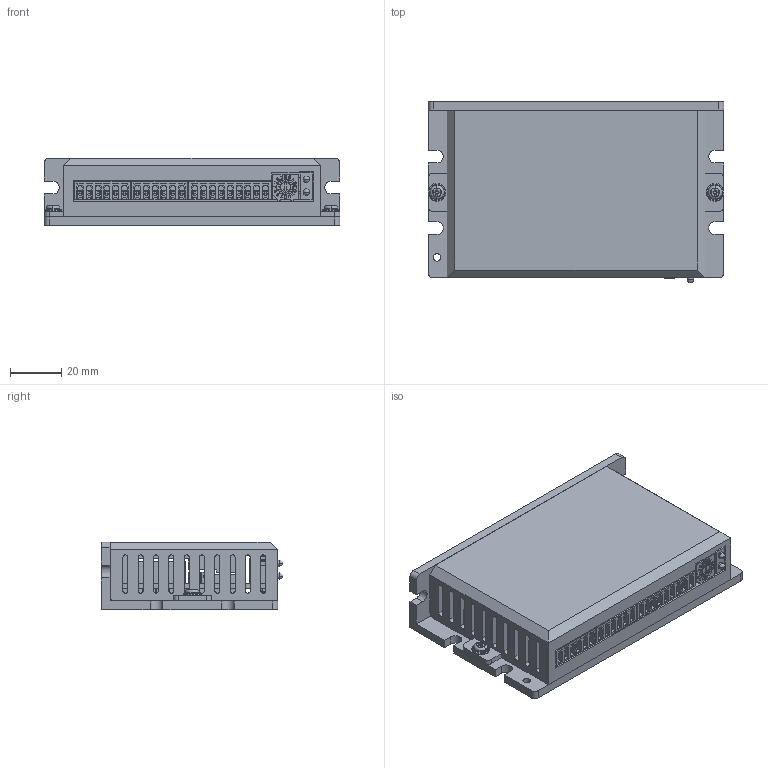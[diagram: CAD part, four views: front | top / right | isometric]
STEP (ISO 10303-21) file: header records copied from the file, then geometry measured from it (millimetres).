
FILE_DESCRIPTION((''),'2;1');
FILE_NAME('CL574_0_ASM_15_ASM','2020-08-19T',('sunjun'),(''),'PRO/ENGINEER BY PARAMETRIC TECHNOLOGY CORPORATION, 2008090','PRO/ENGINEER BY PARAMETRIC TECHNOLOGY CORPORATION, 2008090','');
FILE_SCHEMA(('CONFIG_CONTROL_DESIGN'));
Length unit declared in the file: millimetre
Products named in the file (13): 2_2; M3_1; PCB_CL574_0_3; LED_GREEN_RED_2; CONNECTOR_3_5MM6PIN_MALE_2; CONNECTOR_3_5MM9PIN_MALE_4; ROTARY_DRR3016-Z_FUJISOKU__1; PCB_CL57_ASM_8_ASM; MSK_05_G2_1; HEADER_2_0_4X_1; DIP_SWITCH_8PIN_VIC2_2; GZ_CL57C2_0_20200629_2; CL574_0_ASM_15_ASM
Assembly tree (15 placements, depth 3):
  CL574_0_ASM_15_ASM
    2_2
    M3_1  x2
    PCB_CL57_ASM_8_ASM
      PCB_CL574_0_3
      LED_GREEN_RED_2  x2
      CONNECTOR_3_5MM6PIN_MALE_2  x2
      CONNECTOR_3_5MM9PIN_MALE_4
      ROTARY_DRR3016-Z_FUJISOKU__1
    MSK_05_G2_1
    HEADER_2_0_4X_1
    DIP_SWITCH_8PIN_VIC2_2
    GZ_CL57C2_0_20200629_2
Bounding box: 116 x 71.2 x 26.5 mm (x, y, z)
Volume: 74782.5 mm3; surface area: 67784.1 mm2
Topology: 14 solids, 14 shells, 2076 faces, 5448 edges, 3537 vertices
Faces by surface type: plane 1711, cylinder 217, extrusion 100, cone 20, torus 16, sphere 8, bspline 4
Entity records: 60027 total; most frequent: CARTESIAN_POINT 17609, ORIENTED_EDGE 9040, DIRECTION 7878, EDGE_CURVE 4520, VECTOR 3998, LINE 3898, VERTEX_POINT 2943, AXIS2_PLACEMENT_3D 1940
